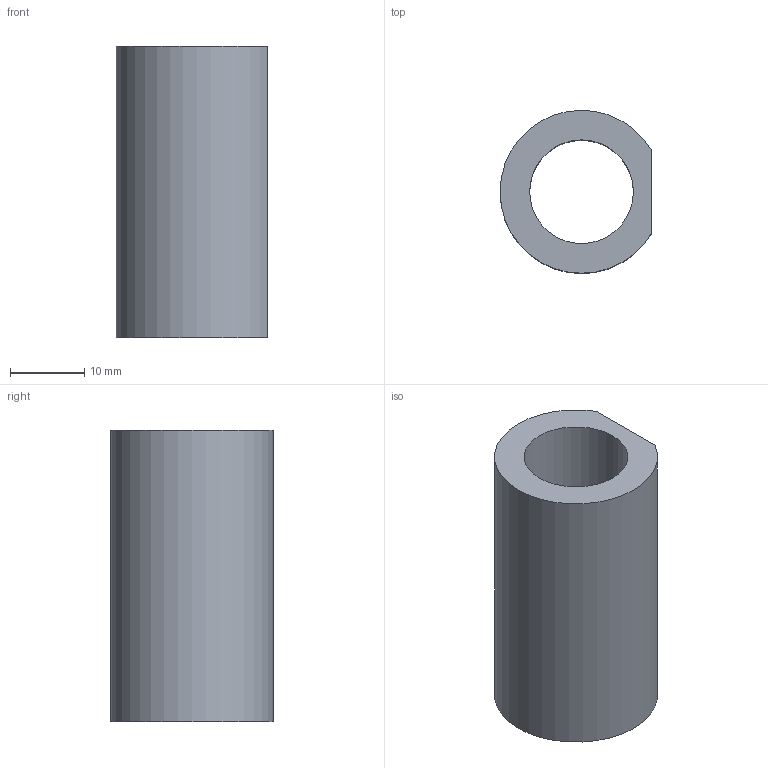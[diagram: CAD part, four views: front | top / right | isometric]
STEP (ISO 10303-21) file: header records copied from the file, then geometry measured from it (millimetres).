
FILE_DESCRIPTION(('Open CASCADE Model'),'2;1');
FILE_NAME('Open CASCADE Shape Model','2026-10-15T22:00:36',('Author'),( 'Open CASCADE'),'Open CASCADE STEP processor 7.9','Open CASCADE 7.9' ,'Unknown');
FILE_SCHEMA(('AUTOMOTIVE_DESIGN { 1 0 10303 214 1 1 1 1 }'));
Length unit declared in the file: millimetre
Products named in the file (1): Open CASCADE STEP translator 7.9 5
Bounding box: 20.5 x 22 x 39.4 mm (x, y, z)
Volume: 8468.8 mm3; surface area: 4864.9 mm2
Topology: 1 solids, 1 shells, 5 faces, 9 edges, 6 vertices
Faces by surface type: plane 3, cylinder 2
Full cylindrical faces by diameter (mm): 14 x1
Entity records: 260 total; most frequent: CARTESIAN_POINT 55, DIRECTION 37, ORIENTED_EDGE 18, PCURVE 18, DEFINITIONAL_REPRESENTATION 18, LINE 15, VECTOR 15, AXIS2_PLACEMENT_3D 10
